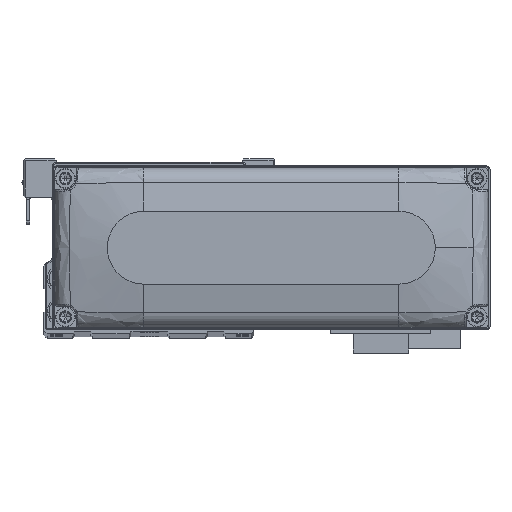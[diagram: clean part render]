
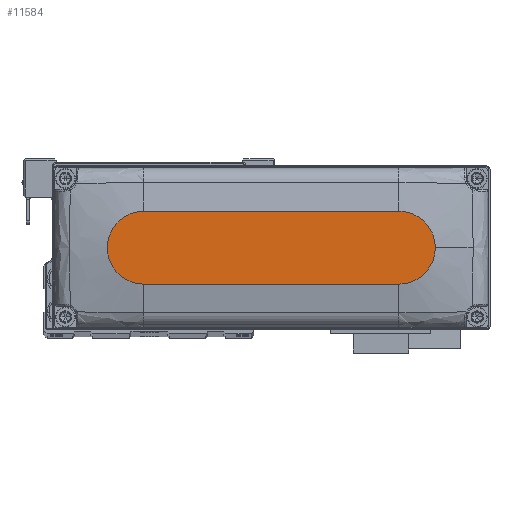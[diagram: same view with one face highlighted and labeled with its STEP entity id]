
A CAD part, top view. The second image highlights one B-rep face of the part: STEP entity #11584.
In plain terms, the highlighted planar face has unit normal (0, 0, 1).
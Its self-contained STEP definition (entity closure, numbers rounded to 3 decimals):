
#2280 = AXIS2_PLACEMENT_3D ( 'NONE', #21486, #33710, #6266 ) ;
#2747 = VECTOR ( 'NONE', #22266, 1000. ) ;
#2988 = EDGE_CURVE ( 'NONE', #5756, #34254, #12589, .T. ) ;
#3663 = ORIENTED_EDGE ( 'NONE', *, *, #15888, .T. ) ;
#3716 = VERTEX_POINT ( 'NONE', #17818 ) ;
#4681 = DIRECTION ( 'NONE',  ( 1., 0., 0. ) ) ;
#5756 = VERTEX_POINT ( 'NONE', #17545 ) ;
#5822 = ORIENTED_EDGE ( 'NONE', *, *, #24811, .T. ) ;
#6266 = DIRECTION ( 'NONE',  ( 1., 0., 0. ) ) ;
#7139 = CIRCLE ( 'NONE', #29515, 10. ) ;
#7267 = DIRECTION ( 'NONE',  ( 1., 0., 0. ) ) ;
#7299 = VECTOR ( 'NONE', #38666, 1000. ) ;
#9274 = PLANE ( 'NONE',  #2280 ) ;
#9345 = DIRECTION ( 'NONE',  ( 1., 0., 0. ) ) ;
#10055 = CARTESIAN_POINT ( 'NONE',  ( -35., 10., 28. ) ) ;
#11584 = ADVANCED_FACE ( 'NONE', ( #36732 ), #9274, .T. ) ;
#12589 = CIRCLE ( 'NONE', #34995, 10. ) ;
#14218 = LINE ( 'NONE', #26447, #7299 ) ;
#15888 = EDGE_CURVE ( 'NONE', #17106, #5756, #7139, .T. ) ;
#16395 = EDGE_CURVE ( 'NONE', #3716, #17106, #14218, .T. ) ;
#17106 = VERTEX_POINT ( 'NONE', #26685 ) ;
#17545 = CARTESIAN_POINT ( 'NONE',  ( 45., 0., 28. ) ) ;
#17818 = CARTESIAN_POINT ( 'NONE',  ( -35., -10., 28. ) ) ;
#19887 = CARTESIAN_POINT ( 'NONE',  ( 35., 0., 28. ) ) ;
#21486 = CARTESIAN_POINT ( 'NONE',  ( 0., 0., 28. ) ) ;
#22266 = DIRECTION ( 'NONE',  ( -1., 0., 0. ) ) ;
#22481 = CARTESIAN_POINT ( 'NONE',  ( -35., 0., 28. ) ) ;
#22653 = CARTESIAN_POINT ( 'NONE',  ( 35., 10., 28. ) ) ;
#22811 = ORIENTED_EDGE ( 'NONE', *, *, #23526, .T. ) ;
#23091 = ORIENTED_EDGE ( 'NONE', *, *, #16395, .T. ) ;
#23526 = EDGE_CURVE ( 'NONE', #34254, #39409, #37500, .T. ) ;
#24579 = CARTESIAN_POINT ( 'NONE',  ( 35., 0., 28. ) ) ;
#24811 = EDGE_CURVE ( 'NONE', #39409, #3716, #32261, .T. ) ;
#26447 = CARTESIAN_POINT ( 'NONE',  ( -35., -10., 28. ) ) ;
#26685 = CARTESIAN_POINT ( 'NONE',  ( 35., -10., 28. ) ) ;
#27174 = CARTESIAN_POINT ( 'NONE',  ( -35., 10., 28. ) ) ;
#29515 = AXIS2_PLACEMENT_3D ( 'NONE', #19887, #32119, #4681 ) ;
#32119 = DIRECTION ( 'NONE',  ( 0., 0., 1. ) ) ;
#32261 = CIRCLE ( 'NONE', #37394, 10. ) ;
#33647 = EDGE_LOOP ( 'NONE', ( #22811, #5822, #23091, #3663, #37506 ) ) ;
#33710 = DIRECTION ( 'NONE',  ( 0., 0., 1. ) ) ;
#34254 = VERTEX_POINT ( 'NONE', #22653 ) ;
#34704 = DIRECTION ( 'NONE',  ( 0., 0., 1. ) ) ;
#34995 = AXIS2_PLACEMENT_3D ( 'NONE', #24579, #36803, #9345 ) ;
#36732 = FACE_OUTER_BOUND ( 'NONE', #33647, .T. ) ;
#36803 = DIRECTION ( 'NONE',  ( 0., 0., 1. ) ) ;
#37394 = AXIS2_PLACEMENT_3D ( 'NONE', #22481, #34704, #7267 ) ;
#37500 = LINE ( 'NONE', #10055, #2747 ) ;
#37506 = ORIENTED_EDGE ( 'NONE', *, *, #2988, .T. ) ;
#38666 = DIRECTION ( 'NONE',  ( 1., 0., 0. ) ) ;
#39409 = VERTEX_POINT ( 'NONE', #27174 ) ;
